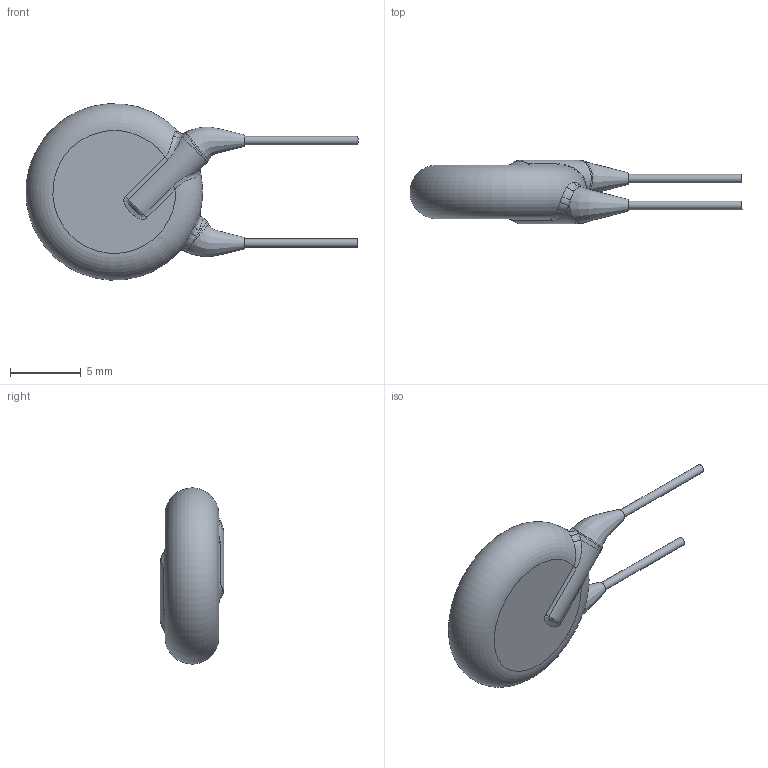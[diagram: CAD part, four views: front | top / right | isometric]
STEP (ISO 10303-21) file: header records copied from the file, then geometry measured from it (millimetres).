
FILE_DESCRIPTION(/* description */ (''),/* implementation_level */ '2;1');
FILE_NAME(/* name */ 'I:\Marketing\M6t1\3D-Models\Zchng-Werk-3\Upload for homepage\Roederstein\WYO\Y5U_250-440\WYO502MCMCD0KR\WYO502MCMCD0KR.stp',/* time_stamp */ '2018-03-20T15:59:49+01:00',/* author */ ('sheinrich'),/* organization */ (''),/* preprocessor_version */ 'ST-DEVELOPER v16.1',/* originating_system */ 'Autodesk Inventor 2016',/* authorisation */ '');
FILE_SCHEMA (('AUTOMOTIVE_DESIGN { 1 0 10303 214 3 1 1 }'));
Length unit declared in the file: centimetre
Products named in the file (1): WYO502MCMCD0KR
Bounding box: 23.5 x 4.5 x 12.47 mm (x, y, z)
Volume: 445.5 mm3; surface area: 402.2 mm2
Topology: 1 solids, 1 shells, 43 faces, 96 edges, 57 vertices
Faces by surface type: bspline 22, cylinder 8, torus 7, plane 6
Full cylindrical faces by diameter (mm): 0.6 x2
Entity records: 2152 total; most frequent: CARTESIAN_POINT 1271, ORIENTED_EDGE 184, DIRECTION 124, EDGE_CURVE 92, AXIS2_PLACEMENT_3D 58, VERTEX_POINT 56, B_SPLINE_CURVE_WITH_KNOTS 48, EDGE_LOOP 48
